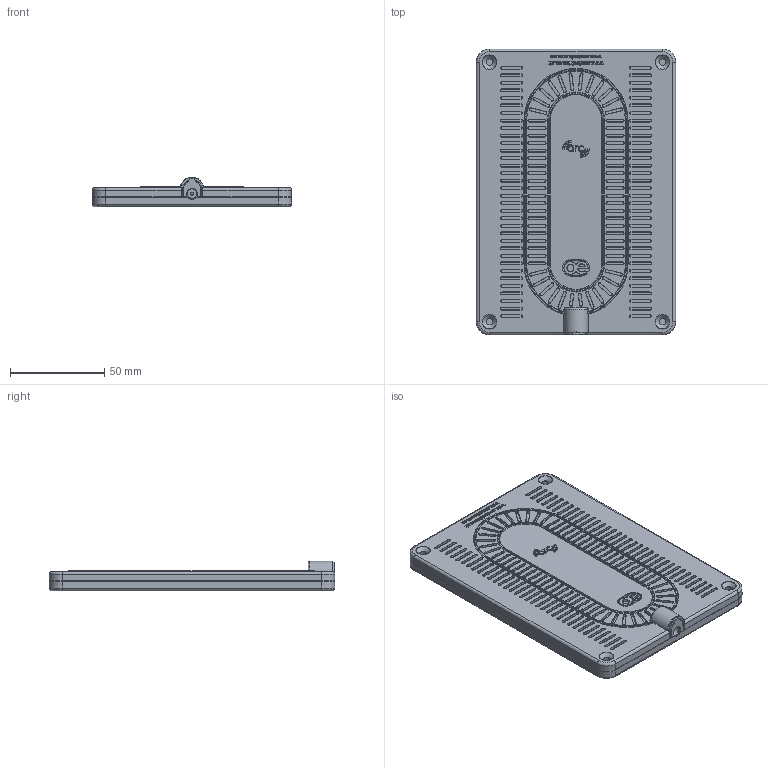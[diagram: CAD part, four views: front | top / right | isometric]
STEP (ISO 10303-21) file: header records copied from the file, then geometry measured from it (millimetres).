
FILE_DESCRIPTION (( 'STEP AP203' ), '1' );
FILE_NAME ('ARC-H_2.STEP', '2020-03-27T12:27:41', ( '' ), ( '' ), 'SwSTEP 2.0', 'SolidWorks 2019', '' );
FILE_SCHEMA (( 'CONFIG_CONTROL_DESIGN' ));
Products named in the file (1): ARC-H_2
Bounding box: 106 x 152 x 15.69 mm (x, y, z)
Volume: 160841.4 mm3; surface area: 43114.7 mm2
Topology: 1 solids, 3 shells, 2613 faces, 6293 edges, 3918 vertices
Faces by surface type: plane 1024, bspline 470, cylinder 433, torus 374, cone 304, sphere 8
Full cylindrical faces by diameter (mm): 0.2 x1, 0.6 x1, 1.5 x1, 5 x1
Entity records: 90669 total; most frequent: CARTESIAN_POINT 32266, ORIENTED_EDGE 12420, DIRECTION 11375, EDGE_CURVE 6210, AXIS2_PLACEMENT_3D 4000, VERTEX_POINT 3889, LINE 3375, VECTOR 3375
